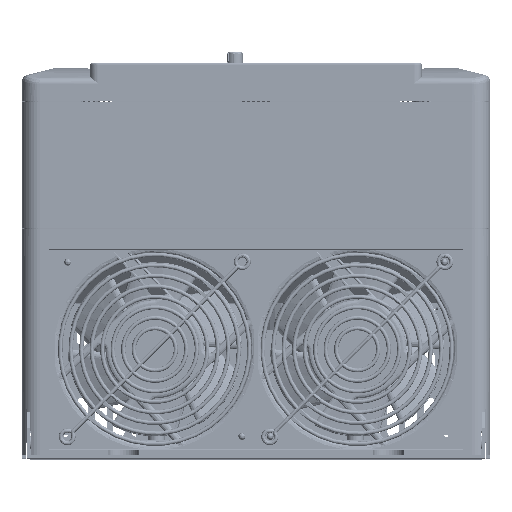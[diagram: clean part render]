
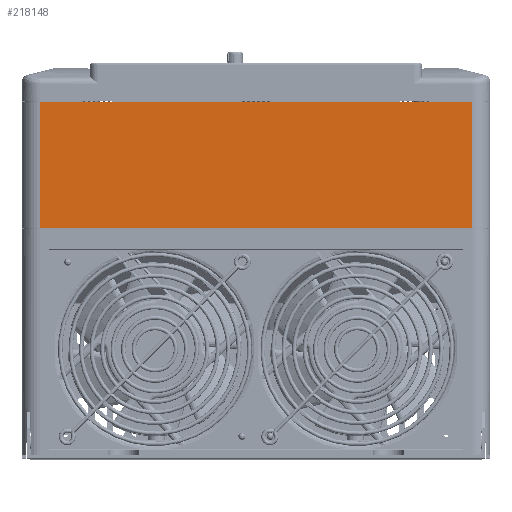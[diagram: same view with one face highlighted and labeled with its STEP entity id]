
A CAD part, top view. The second image highlights one B-rep face of the part: STEP entity #218148.
In plain terms, the highlighted planar face has unit normal (0, 0, 1) as drawn and (1, 0, 0) by its records, which use the part's own axes.
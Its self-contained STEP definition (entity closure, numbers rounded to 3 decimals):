
#139203=DIRECTION('',(0.,1.,0.));
#139204=VECTOR('',#139203,260.);
#139205=CARTESIAN_POINT('',(260.,-130.,76.));
#139206=LINE('',#139205,#139204);
#159146=DIRECTION('',(0.,1.,0.));
#159147=VECTOR('',#159146,260.);
#159148=CARTESIAN_POINT('',(260.,-130.,0.));
#159149=LINE('',#159148,#159147);
#159392=DIRECTION('',(0.,0.,-1.));
#159393=VECTOR('',#159392,76.);
#159394=CARTESIAN_POINT('',(260.,-130.,76.));
#159395=LINE('',#159394,#159393);
#159396=DIRECTION('',(0.,0.,-1.));
#159397=VECTOR('',#159396,76.);
#159398=CARTESIAN_POINT('',(260.,130.,76.));
#159399=LINE('',#159398,#159397);
#174466=CARTESIAN_POINT('',(260.,-130.,0.));
#174468=VERTEX_POINT('',#174466);
#174472=CARTESIAN_POINT('',(260.,-130.,76.));
#174473=VERTEX_POINT('',#174472);
#174475=CARTESIAN_POINT('',(260.,130.,0.));
#174477=VERTEX_POINT('',#174475);
#174478=CARTESIAN_POINT('',(260.,130.,76.));
#174479=VERTEX_POINT('',#174478);
#218136=CARTESIAN_POINT('',(260.,-141.,0.));
#218137=DIRECTION('',(1.,0.,0.));
#218138=DIRECTION('',(0.,1.,0.));
#218139=AXIS2_PLACEMENT_3D('',#218136,#218137,#218138);
#218140=PLANE('',#218139);
#218141=ORIENTED_EDGE('',*,*,#218131,.F.);
#218142=ORIENTED_EDGE('',*,*,#188072,.T.);
#218144=ORIENTED_EDGE('',*,*,#218143,.T.);
#218145=ORIENTED_EDGE('',*,*,#217987,.F.);
#218146=EDGE_LOOP('',(#218141,#218142,#218144,#218145));
#218147=FACE_OUTER_BOUND('',#218146,.F.);
#188072=EDGE_CURVE('',#174473,#174479,#139206,.T.);
#217987=EDGE_CURVE('',#174468,#174477,#159149,.T.);
#218131=EDGE_CURVE('',#174473,#174468,#159395,.T.);
#218143=EDGE_CURVE('',#174479,#174477,#159399,.T.);
#218148=ADVANCED_FACE('',(#218147),#218140,.T.);
